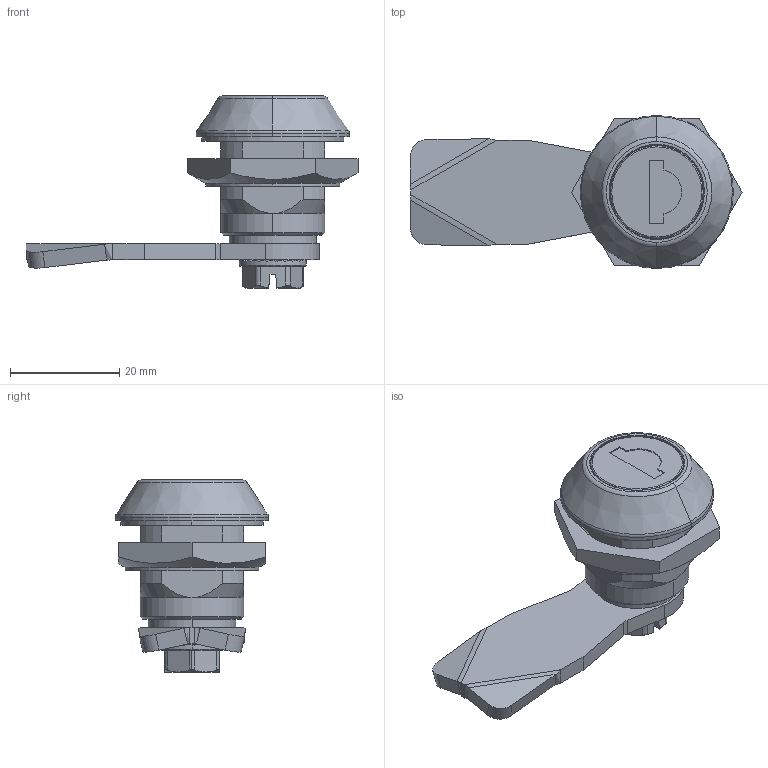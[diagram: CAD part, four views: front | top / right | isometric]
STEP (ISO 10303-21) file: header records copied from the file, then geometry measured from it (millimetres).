
FILE_DESCRIPTION (( 'STEP AP214' ), '1' );
FILE_NAME ('M22MS.STEP', '2016-09-08T09:23:43', ( '' ), ( '' ), 'SwSTEP 2.0', 'SolidWorks 2015', '' );
FILE_SCHEMA (( 'AUTOMOTIVE_DESIGN' ));
Length unit declared in the file: millimetre
Products named in the file (9): 1C.J-1XX.GH.L_#3, 1.00.18.45; DIN 6921_M6x8; 2.IP65.003_A; DIN 3771_9.1x1.6; podk³adka ken_A; 2.NKR_M22 - A; Wk³adka EURO LOCK_MS; 2.K.M22W.001_180; M22MS
Assembly tree (8 placements, depth 2):
  M22MS
    2.K.M22W.001_180
    Wk³adka EURO LOCK_MS
    2.NKR_M22 - A
    podk³adka ken_A
    DIN 3771_9.1x1.6
    2.IP65.003_A
    DIN 6921_M6x8
    1C.J-1XX.GH.L_#3, 1.00.18.45
Bounding box: 60.75 x 28 x 35.15 mm (x, y, z)
Volume: 13090.9 mm3; surface area: 10574.7 mm2
Topology: 8 solids, 8 shells, 329 faces, 862 edges, 552 vertices
Faces by surface type: plane 188, cylinder 76, cone 44, torus 17, bspline 4
Entity records: 10906 total; most frequent: CARTESIAN_POINT 2594, ORIENTED_EDGE 1720, DIRECTION 1583, EDGE_CURVE 860, AXIS2_PLACEMENT_3D 592, VERTEX_POINT 552, LINE 399, VECTOR 399
